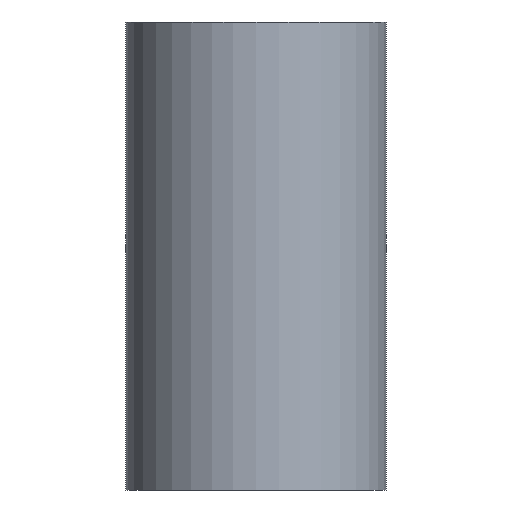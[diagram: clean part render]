
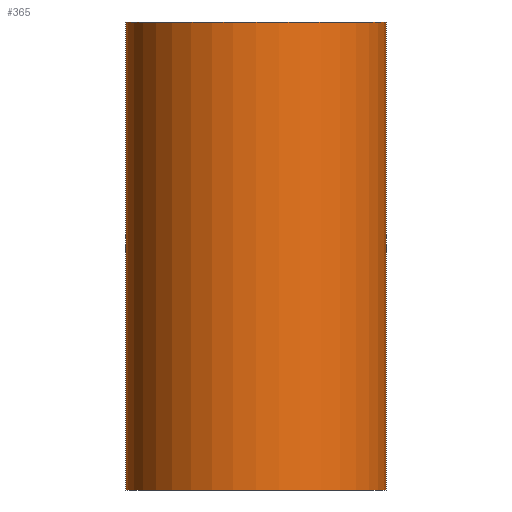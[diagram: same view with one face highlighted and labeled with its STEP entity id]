
A CAD part, front view. The second image highlights one B-rep face of the part: STEP entity #365.
In plain terms, the highlighted cylindrical face has radius 27.8 mm (diameter 55.6 mm), a partial arc.
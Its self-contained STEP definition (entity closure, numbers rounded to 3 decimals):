
#5 = DIRECTION ( 'NONE',  ( 1., 0., 0. ) ) ;
#6 = DIRECTION ( 'NONE',  ( 0., 0., 1. ) ) ;
#7 = AXIS2_PLACEMENT_3D ( 'NONE', #10, #6, #5 ) ;
#8 = CYLINDRICAL_SURFACE ( 'NONE', #7, 27.8 ) ;
#10 = CARTESIAN_POINT ( 'NONE',  ( 0., 0., 0. ) ) ;
#16 = FACE_OUTER_BOUND ( 'NONE', #370, .T. ) ;
#17 = CARTESIAN_POINT ( 'NONE',  ( 27.8, 0., 0. ) ) ;
#28 = CARTESIAN_POINT ( 'NONE',  ( -27.8, 0., 0. ) ) ;
#29 = DIRECTION ( 'NONE',  ( 0., 0., 1. ) ) ;
#30 = VECTOR ( 'NONE', #29, 1000. ) ;
#31 = CARTESIAN_POINT ( 'NONE',  ( -27.8, 0., 0. ) ) ;
#32 = LINE ( 'NONE', #31, #30 ) ;
#33 = CARTESIAN_POINT ( 'NONE',  ( -27.8, 0., -100. ) ) ;
#34 = CARTESIAN_POINT ( 'NONE',  ( 27.8, 0., -100. ) ) ;
#75 = DIRECTION ( 'NONE',  ( 1., 0., 0. ) ) ;
#76 = DIRECTION ( 'NONE',  ( 0., 0., 1. ) ) ;
#77 = CARTESIAN_POINT ( 'NONE',  ( 0., 0., -100. ) ) ;
#78 = AXIS2_PLACEMENT_3D ( 'NONE', #77, #76, #75 ) ;
#79 = CIRCLE ( 'NONE', #78, 27.8 ) ;
#208 = DIRECTION ( 'NONE',  ( 0., 0., 1. ) ) ;
#216 = VECTOR ( 'NONE', #208, 1000. ) ;
#217 = CARTESIAN_POINT ( 'NONE',  ( 27.8, 0., 0. ) ) ;
#218 = LINE ( 'NONE', #217, #216 ) ;
#260 = AXIS2_PLACEMENT_3D ( 'NONE', #262, #261, #265 ) ;
#261 = DIRECTION ( 'NONE',  ( 0., 0., 1. ) ) ;
#262 = CARTESIAN_POINT ( 'NONE',  ( 0., 0., 0. ) ) ;
#263 = CIRCLE ( 'NONE', #260, 27.8 ) ;
#265 = DIRECTION ( 'NONE',  ( 1., 0., 0. ) ) ;
#304 = EDGE_CURVE ( 'NONE', #352, #360, #218, .T. ) ;
#324 = ORIENTED_EDGE ( 'NONE', *, *, #304, .T. ) ;
#326 = ORIENTED_EDGE ( 'NONE', *, *, #402, .T. ) ;
#329 = ORIENTED_EDGE ( 'NONE', *, *, #355, .F. ) ;
#339 = EDGE_CURVE ( 'NONE', #356, #360, #263, .T. ) ;
#342 = ORIENTED_EDGE ( 'NONE', *, *, #339, .F. ) ;
#352 = VERTEX_POINT ( 'NONE', #34 ) ;
#353 = VERTEX_POINT ( 'NONE', #33 ) ;
#355 = EDGE_CURVE ( 'NONE', #353, #356, #32, .T. ) ;
#356 = VERTEX_POINT ( 'NONE', #28 ) ;
#360 = VERTEX_POINT ( 'NONE', #17 ) ;
#365 = ADVANCED_FACE ( 'NONE', ( #16 ), #8, .T. ) ;
#370 = EDGE_LOOP ( 'NONE', ( #329, #326, #324, #342 ) ) ;
#402 = EDGE_CURVE ( 'NONE', #353, #352, #79, .T. ) ;
